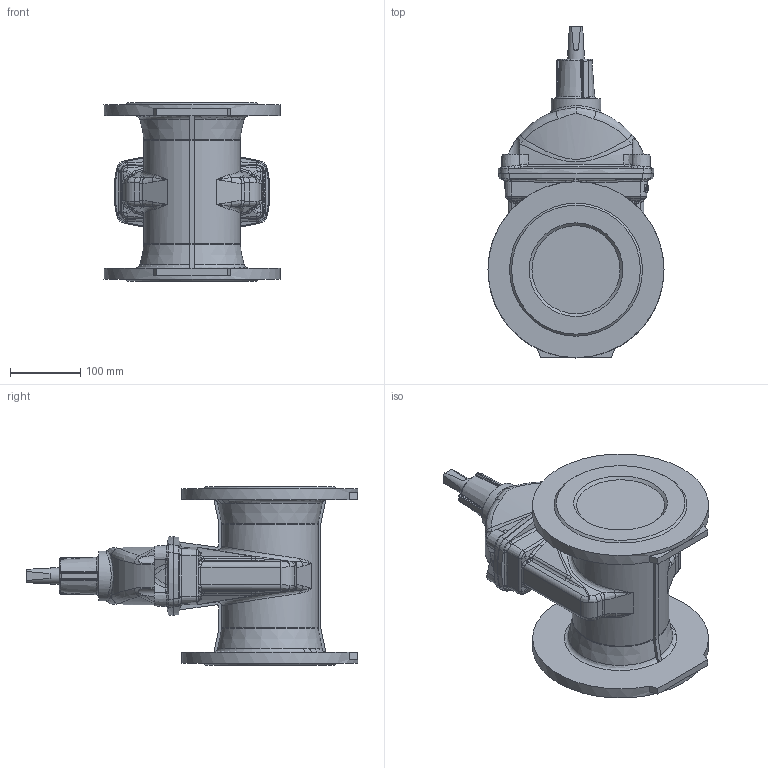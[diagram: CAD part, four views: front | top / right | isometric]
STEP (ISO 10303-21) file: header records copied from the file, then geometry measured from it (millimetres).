
FILE_DESCRIPTION (( 'STEP AP203' ), '1' );
FILE_NAME ('O_02_20_DN125_XXXXX9.STEP', '2014-07-14T07:39:34', ( '' ), ( '' ), 'SwSTEP 2.0', 'SolidWorks 2012', '' );
FILE_SCHEMA (( 'CONFIG_CONTROL_DESIGN' ));
Length unit declared in the file: millimetre
Products named in the file (1): O_02_20_DN125_XXXXX9
Bounding box: 250 x 471.26 x 254 mm (x, y, z)
Volume: 7717718.8 mm3; surface area: 407799.6 mm2
Topology: 1 solids, 1 shells, 602 faces, 1492 edges, 893 vertices
Faces by surface type: bspline 266, plane 160, cylinder 85, cone 57, torus 28, sphere 6
Full cylindrical faces by diameter (mm): 23 x1, 71 x1, 250 x2
Entity records: 27359 total; most frequent: CARTESIAN_POINT 15379, ORIENTED_EDGE 2900, DIRECTION 1898, EDGE_CURVE 1450, VERTEX_POINT 885, AXIS2_PLACEMENT_3D 720, EDGE_LOOP 637, FACE_OUTER_BOUND 610
